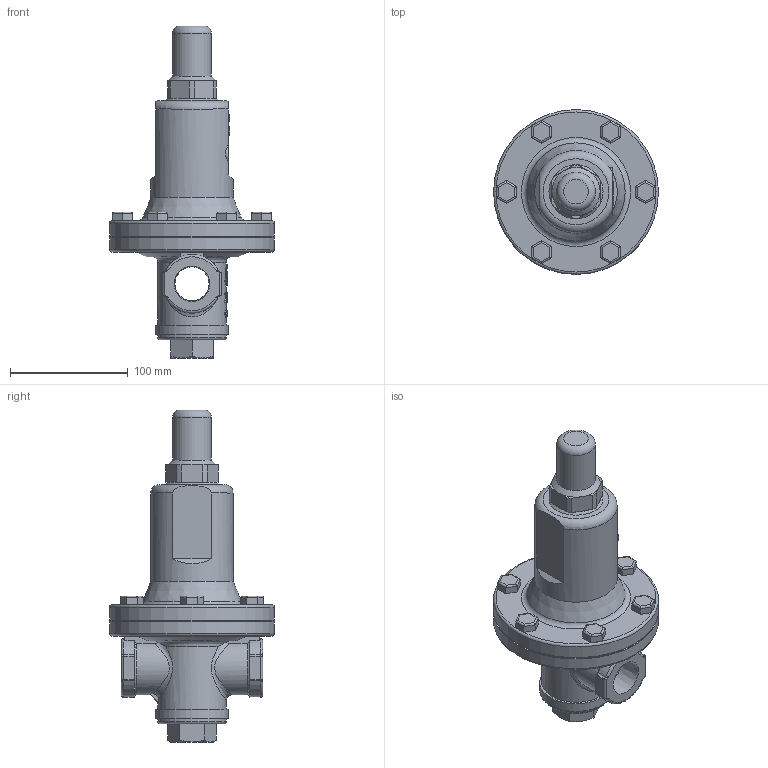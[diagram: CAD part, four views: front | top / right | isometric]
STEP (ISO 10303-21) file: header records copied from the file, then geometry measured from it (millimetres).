
FILE_DESCRIPTION(/* description */ ('ベン'),/* implementation_level */ '2;1');
FILE_NAME(/* name */ 'C:\Users\Fujimoto-s\OneDrive\Inventor\WorkSpace\\X2\305D306E4ED6\X0\\ホームページ用\\X2\30C030A630F330ED30FC30C97D206750\X0\\ねじ込み継手\RD30-GH 25A\RD30-GH 25A.stp',/* time_stamp */ '2024-08-08T10:24:32+09:00',/* author */ ('Fujimoto-s'),/* organization */ (''),/* preprocessor_version */ 'ST-DEVELOPER v15.2',/* originating_system */ 'Autodesk Inventor 2014',/* authorisation */ '');
FILE_SCHEMA (('AUTOMOTIVE_DESIGN { 1 0 10303 214 3 1 1 }'));
Length unit declared in the file: millimetre
Products named in the file (1): RD30-GH 25A
Bounding box: 140 x 140 x 282 mm (x, y, z)
Volume: 1154009.2 mm3; surface area: 106665.5 mm2
Topology: 1 solids, 1 shells, 394 faces, 977 edges, 619 vertices
Faces by surface type: plane 215, cylinder 99, bspline 53, torus 14, cone 13
Full cylindrical faces by diameter (mm): 3 x2, 29 x1, 33 x1, 58 x2, 62 x1, 70 x1, 138 x1, 140 x2
Entity records: 13482 total; most frequent: CARTESIAN_POINT 4533, ORIENTED_EDGE 1904, DIRECTION 1704, EDGE_CURVE 950, VERTEX_POINT 614, AXIS2_PLACEMENT_3D 599, LINE 506, VECTOR 506
